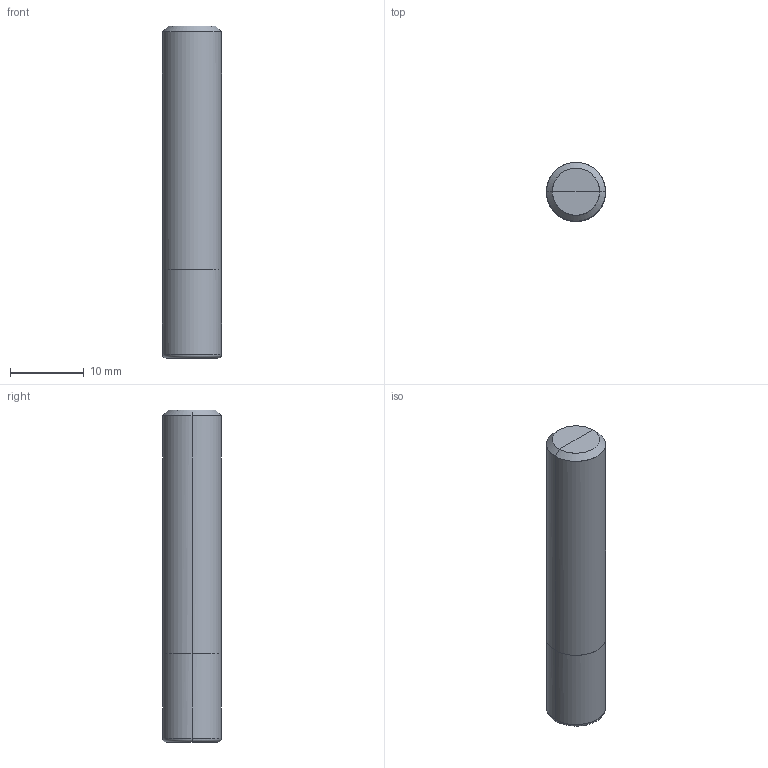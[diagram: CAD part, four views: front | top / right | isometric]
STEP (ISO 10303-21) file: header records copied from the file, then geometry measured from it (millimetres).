
FILE_DESCRIPTION(/* description */ (''),/* implementation_level */ '2;1');
FILE_NAME(/*name*/ '5031-8F-0.5R',/*time_stamp*/'2021-4-28T11:35:29',/*author*/ ('ISBE GmbH'),/*organization*/ ('ISBE GmbH'),/*preprocessor_version*/ 'STEP IO v1.0',/*originating_system*/ '',/*authorisation*/ '');
FILE_SCHEMA (('AUTOMOTIVE_DESIGN'));
Length unit declared in the file: millimetre
Products named in the file (1): Document
Bounding box: 8 x 7.99 x 45 mm (x, y, z)
Surface area: 1315.8 mm2 (no closed solid volume)
Topology: 0 solids, 16 shells, 16 faces, 69 edges, 66 vertices
Faces by surface type: bspline 16
Entity records: 1206 total; most frequent: CARTESIAN_POINT 899, VERTEX_POINT 56, EDGE_CURVE 56, ORIENTED_EDGE 56, DIRECTION 16, EDGE_LOOP 16, FACE_OUTER_BOUND 16, ADVANCED_FACE 16
